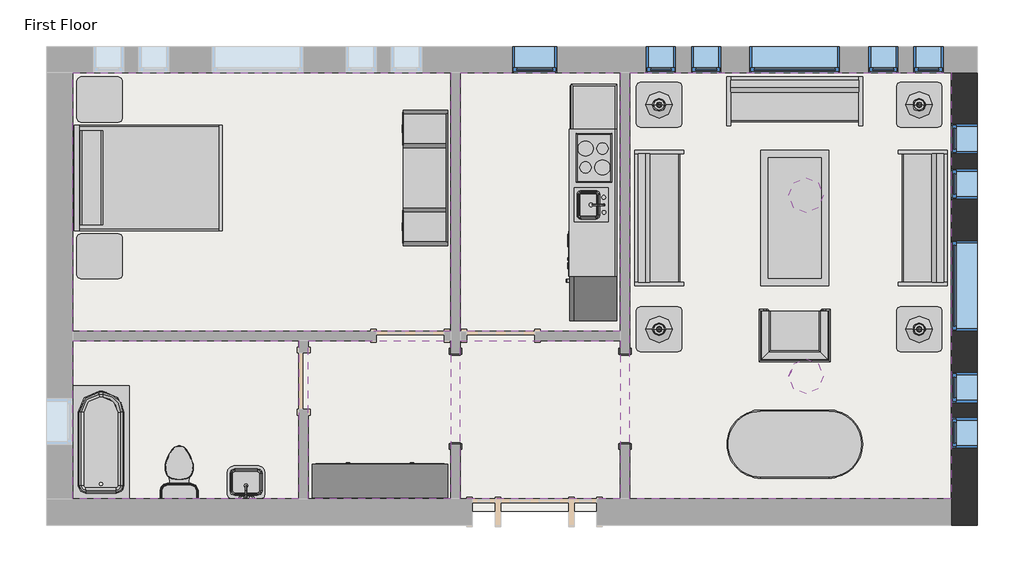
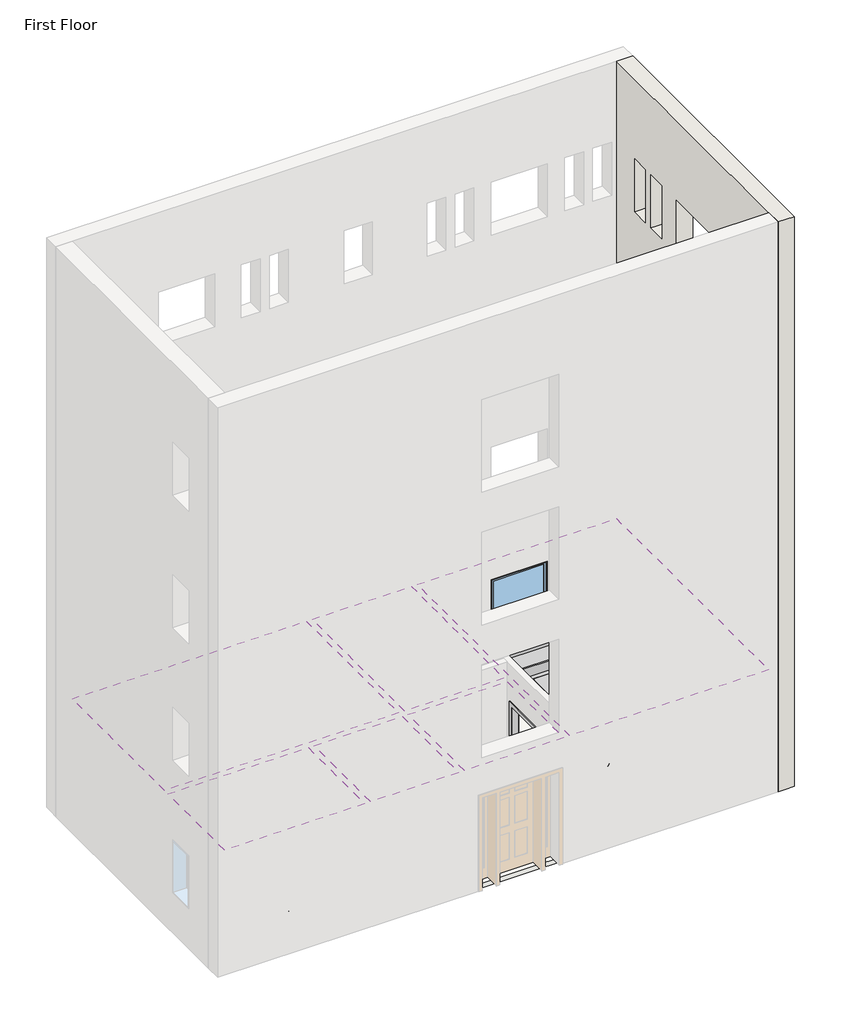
# One storey, part 2 of 2: 15 furniture elements, 11 windows, 6 coverings, 6 light fixtures, 3 flow terminals, 3 proxies, 1 slab, 1 wall.
"""IFC4 building model written with IfcOpenShell, lengths in millimetres."""

from ifc_helpers import new_model, si_unit, frame, origin, place, context, project, spatial, polyline, outline, extrude, faceted_brep, transform, mapped, element, save
from components import proxy_64a468c4, proxy_f44482cc, flow_terminal_0aeb31e3, toilet_domestic_3d_toilet_domestic_3d_f7549cf7, toilet_domestic_3d_toilet_domestic_3d_183bbd19, tub_rectangular_3d_tub_rectangular_3d_5e45a89b, furniture_096e7f55, chair_corbu_chair_corbu_2764bdef, furniture_7c473f12, furniture_ddc78764, furniture_4ef38d96, furniture_cd93a443, furniture_2c34a4f9, furniture_3a588284, furniture_1befe2a2, pendant_light_disk_100w_120v_c68bffb6, pendant_light_disk_100w_120v_c567000c, table_lamp_standard_60w_120v_6e8cd8b1, window_da97879f, window_d61ef850, window_60baf983, window_6eb97611

model = new_model("IFC4")

# Units and contexts
model_context = context("Model", 3, world=origin())
ifc_project = project(units=[si_unit("LENGTHUNIT", "METRE", prefix="MILLI")], contexts=[model_context])

# Site, building, storey
site = spatial("IfcSite", under=ifc_project)
building = spatial("IfcBuilding", under=site)
storey = spatial("IfcBuildingStorey", under=building, Name="First Floor", Elevation=0.0)

# Proxies
placement = place(None, origin())
proxy_shape = proxy_64a468c4(model_context)
element("IfcBuildingElementProxy", 1, Name="Kitchenette - Medium : 8'6\"", ObjectType="Kitchenette - Medium : 8'6\"", at=placement, inside=storey, context=model_context, shape_type="MappedRepresentation", body=[
    mapped(proxy_shape, transform((-3887.7589563, 8837.7956433, 0.0), x_axis=(0.0, -1.0, 0.0), y_axis=(1.0, 0.0, 0.0), z_axis=(0.0, 0.0, 1.0))),
])
proxy_2_shape = proxy_f44482cc(model_context)
element("IfcBuildingElementProxy", 2, Name="Opening-Cased : 48\" x 84\"", ObjectType="Opening-Cased : 48\" x 84\"", at=placement, inside=storey, context=model_context, shape_type="MappedRepresentation", body=[
    mapped(proxy_2_shape, transform((-3773.4589563, 5882.4203434, 0.0), x_axis=(0.0, 1.0, 0.0), y_axis=(-1.0, 0.0, 0.0), z_axis=(0.0, 0.0, 1.0))),
])
element("IfcBuildingElementProxy", 3, Name="Opening-Cased : 48\" x 84\"", ObjectType="Opening-Cased : 48\" x 84\"", at=placement, inside=storey, context=model_context, shape_type="MappedRepresentation", body=[
    mapped(proxy_2_shape, transform((-6059.4589563, 5866.04303, 0.0), x_axis=(0.0, -1.0, 0.0), y_axis=(1.0, 0.0, 0.0), z_axis=(0.0, 0.0, 1.0))),
])

# Coverings
element("IfcCovering", 4, ObjectType="GWB on Mtl. Stud", at=placement, inside=storey, context=model_context, shape_type="SweptSolid", body=[
    extrude(outline(polyline([(-11217.2464563, 10270.0191867), (-6122.9589563, 10270.0191867), (-6122.9589563, 6787.0441867), (-11217.2464563, 6787.0441867), (-11217.2464563, 10270.0191867)])), frame((0.0, 0.0, 2590.8), z_axis=(0.0, 0.0, 1.0), x_axis=(1.0, 0.0, 0.0)), (0.0, 0.0, 1.0), 107.95),
])
element("IfcCovering", 5, ObjectType="GWB on Mtl. Stud", at=placement, inside=storey, context=model_context, shape_type="SweptSolid", body=[
    extrude(outline(polyline([(-5995.9589563, 6787.0441867), (-5995.9589563, 10270.0191867), (-3836.9589563, 10270.0191867), (-3836.9589563, 6787.0441867), (-5995.9589563, 6787.0441867)])), frame((0.0, 0.0, 2590.8), z_axis=(0.0, 0.0, 1.0), x_axis=(1.0, 0.0, 0.0)), (0.0, 0.0, 1.0), 107.95),
])
element("IfcCovering", 6, ObjectType="GWB on Mtl. Stud", at=placement, inside=storey, context=model_context, shape_type="SweptSolid", body=[
    extrude(outline(polyline([(-3709.9589563, 4526.4441867), (-3709.9589563, 10270.0191867), (622.3285437, 10270.0191867), (622.3285437, 4526.4441867), (-3709.9589563, 4526.4441867)])), frame((0.0, 0.0, 2590.8), z_axis=(0.0, 0.0, 1.0), x_axis=(1.0, 0.0, 0.0)), (0.0, 0.0, 1.0), 107.95),
])
element("IfcCovering", 7, ObjectType="GWB on Mtl. Stud", at=placement, inside=storey, context=model_context, shape_type="SweptSolid", body=[
    extrude(outline(polyline([(-3836.9589563, 4526.4441867), (-5995.9589563, 4526.4441867), (-5995.9589563, 6660.0441867), (-3836.9589563, 6660.0441867), (-3836.9589563, 4526.4441867)])), frame((0.0, 0.0, 2590.8), z_axis=(0.0, 0.0, 1.0), x_axis=(1.0, 0.0, 0.0)), (0.0, 0.0, 1.0), 107.95),
])
element("IfcCovering", 8, ObjectType="GWB on Mtl. Stud", at=placement, inside=storey, context=model_context, shape_type="SweptSolid", body=[
    extrude(outline(polyline([(-6122.9589563, 4526.4441867), (-8042.2464563, 4526.4441867), (-8042.2464563, 6660.0441867), (-6122.9589563, 6660.0441867), (-6122.9589563, 4526.4441867)])), frame((0.0, 0.0, 2590.8), z_axis=(0.0, 0.0, 1.0), x_axis=(1.0, 0.0, 0.0)), (0.0, 0.0, 1.0), 107.95),
])
element("IfcCovering", 9, ObjectType="GWB on Mtl. Stud", at=placement, inside=storey, context=model_context, shape_type="SweptSolid", body=[
    extrude(outline(polyline([(-8169.2464563, 6660.0441867), (-8169.2464563, 4526.4441867), (-11217.2464563, 4526.4441867), (-11217.2464563, 6660.0441867), (-8169.2464563, 6660.0441867)])), frame((0.0, 0.0, 2590.8), z_axis=(0.0, 0.0, 1.0), x_axis=(1.0, 0.0, 0.0)), (0.0, 0.0, 1.0), 107.95),
])

# Flow terminals
flow_terminal_shape = flow_terminal_0aeb31e3(model_context)
element("IfcFlowTerminal", 10, ObjectType="Sink Vanity-Square : 24\" x 19\"", at=placement, inside=storey, context=model_context, shape_type="MappedRepresentation", body=[
    mapped(flow_terminal_shape, transform((-8864.7572157, 4706.5895878, 0.0), x_axis=(-1.0, 0.0, 0.0), y_axis=(0.0, -1.0, 0.0), z_axis=(0.0, 0.0, 1.0))),
])
toilet_domestic_3d_toilet_domestic_3d_shape = toilet_domestic_3d_toilet_domestic_3d_f7549cf7(model_context)
toilet_domestic_3d_toilet_domestic_3d_2_shape = toilet_domestic_3d_toilet_domestic_3d_183bbd19(model_context)
element("IfcFlowTerminal", 11, ObjectType="Toilet-Domestic-3D : Toilet-Domestic-3D", at=placement, inside=storey, context=model_context, shape_type="MappedRepresentation", body=[
    mapped(toilet_domestic_3d_toilet_domestic_3d_shape, transform((-9782.1466587, 4940.866411, 0.0), x_axis=(-1.0000000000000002, 0.0, 0.0), y_axis=(0.0, -1.0000000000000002, 0.0), z_axis=(0.0, 0.0, 1.0))),
    mapped(toilet_domestic_3d_toilet_domestic_3d_2_shape, transform((-9782.1466587, 4940.866411, 0.0), x_axis=(-1.0000000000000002, 0.0, 0.0), y_axis=(0.0, -1.0000000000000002, 0.0), z_axis=(0.0, 0.0, 1.0))),
])
tub_rectangular_3d_tub_rectangular_3d_shape = tub_rectangular_3d_tub_rectangular_3d_5e45a89b(model_context)
element("IfcFlowTerminal", 12, ObjectType="Tub-Rectangular-3D : Tub-Rectangular-3D", at=placement, inside=storey, context=model_context, shape_type="MappedRepresentation", body=[
    mapped(tub_rectangular_3d_tub_rectangular_3d_shape, transform((-11393.4589563, 5637.0471554, 0.0), x_axis=(0.0, 1.0, 0.0), y_axis=(-1.0, 0.0, 0.0), z_axis=(0.0, 0.0, 1.0))),
])

# Furniture
furniture_shape = furniture_096e7f55(model_context)
element("IfcFurniture", 13, ObjectType="Bed-Shaker : Double 56\" x 78\"", at=placement, inside=storey, context=model_context, shape_type="MappedRepresentation", body=[
    mapped(furniture_shape, transform((-11183.1982802, 8871.8755561, 0.0), x_axis=(0.0, 1.0, 0.0), y_axis=(-1.0, 0.0, 0.0), z_axis=(0.0, 0.0, 1.0))),
])
chair_corbu_chair_corbu_shape = chair_corbu_chair_corbu_2764bdef(model_context)
element("IfcFurniture", 14, ObjectType="Chair-Corbu : Chair-Corbu", at=placement, inside=storey, context=model_context, shape_type="MappedRepresentation", body=[
    mapped(chair_corbu_chair_corbu_shape, transform((-914.0851858, 7193.4962359, 0.0), x_axis=(-1.0, 0.0, 0.0), y_axis=(0.0, -1.0, 0.0), z_axis=(0.0, 0.0, 1.0))),
])
furniture_2_shape = furniture_7c473f12(model_context)
element("IfcFurniture", 15, ObjectType="Dresser : 72\" x 60\" x 18\"", at=placement, inside=storey, context=model_context, shape_type="MappedRepresentation", body=[
    mapped(furniture_2_shape, transform((-7344.6522161, 4404.5812326, 0.0), x_axis=(-1.0, 0.0, 0.0), y_axis=(0.0, -1.0, 0.0), z_axis=(0.0, 0.0, 1.0))),
])
furniture_3_shape = furniture_ddc78764(model_context)
element("IfcFurniture", 16, ObjectType="Entertainment Center : 72\" x 72\" x 24\"", at=placement, inside=storey, context=model_context, shape_type="MappedRepresentation", body=[
    mapped(furniture_3_shape, transform((-6059.4589563, 8852.8255561, 0.0), x_axis=(0.0, -1.0, 0.0), y_axis=(1.0, 0.0, 0.0), z_axis=(0.0, 0.0, 1.0))),
])
furniture_4_shape = furniture_4ef38d96(model_context)
element("IfcFurniture", 17, ObjectType="Sofa : 72\"", at=placement, inside=storey, context=model_context, shape_type="MappedRepresentation", body=[
    mapped(furniture_4_shape, transform((-1557.8294481, 9741.2775883, 0.0), x_axis=(1.0, 0.0, 0.0), y_axis=(0.0, 1.0, 0.0), z_axis=(0.0, 0.0, 1.0))),
])
element("IfcFurniture", 18, ObjectType="Sofa : 72\"", at=placement, inside=storey, context=model_context, shape_type="MappedRepresentation", body=[
    mapped(furniture_4_shape, transform((93.5869453, 8383.0021785, 0.0), x_axis=(0.0, -1.0, 0.0), y_axis=(1.0, 0.0, 0.0), z_axis=(0.0, 0.0, 1.0))),
])
element("IfcFurniture", 19, ObjectType="Sofa : 72\"", at=placement, inside=storey, context=model_context, shape_type="MappedRepresentation", body=[
    mapped(furniture_4_shape, transform((-3170.104858, 8242.2611949, 0.0), x_axis=(0.0, 1.0, 0.0), y_axis=(-1.0, 0.0, 0.0), z_axis=(0.0, 0.0, 1.0))),
])
furniture_5_shape = furniture_cd93a443(model_context)
element("IfcFurniture", 20, ObjectType="Table-Coffee : 36\" x 72\" x 18\"", at=placement, inside=storey, context=model_context, shape_type="MappedRepresentation", body=[
    mapped(furniture_5_shape, transform((-1582.6700341, 8330.8974534, 0.0), x_axis=(0.0, -1.0, 0.0), y_axis=(1.0, 0.0, 0.0), z_axis=(0.0, 0.0, 1.0))),
])
furniture_6_shape = furniture_2c34a4f9(model_context)
element("IfcFurniture", 21, ObjectType="Table-Dining Oval : 36\" x 72\"", at=placement, inside=storey, context=model_context, shape_type="MappedRepresentation", body=[
    mapped(furniture_6_shape, transform((-1085.6392842, 5622.7300473, 0.0), x_axis=(1.0, 0.0, 0.0), y_axis=(0.0, 1.0, 0.0), z_axis=(0.0, 0.0, 1.0))),
])
furniture_7_shape = furniture_3a588284(model_context)
element("IfcFurniture", 22, ObjectType="Table-End : 24\" x 24\"", at=placement, inside=storey, context=model_context, shape_type="MappedRepresentation", body=[
    mapped(furniture_7_shape, transform((-119.5925866, 9684.2316867, 0.0), x_axis=(1.0, 0.0, 0.0), y_axis=(0.0, 1.0, 0.0), z_axis=(0.0, 0.0, 1.0))),
])
element("IfcFurniture", 23, ObjectType="Table-End : 24\" x 24\"", at=placement, inside=storey, context=model_context, shape_type="MappedRepresentation", body=[
    mapped(furniture_7_shape, transform((-3624.7925866, 9684.2316867, 0.0), x_axis=(1.0, 0.0, 0.0), y_axis=(0.0, 1.0, 0.0), z_axis=(0.0, 0.0, 1.0))),
])
element("IfcFurniture", 24, ObjectType="Table-End : 24\" x 24\"", at=placement, inside=storey, context=model_context, shape_type="MappedRepresentation", body=[
    mapped(furniture_7_shape, transform((-3624.7925866, 6660.0441867, 0.0), x_axis=(1.0, 0.0, 0.0), y_axis=(0.0, 1.0, 0.0), z_axis=(0.0, 0.0, 1.0))),
])
element("IfcFurniture", 25, ObjectType="Table-End : 24\" x 24\"", at=placement, inside=storey, context=model_context, shape_type="MappedRepresentation", body=[
    mapped(furniture_7_shape, transform((-119.5925866, 6660.0441867, 0.0), x_axis=(1.0, 0.0, 0.0), y_axis=(0.0, 1.0, 0.0), z_axis=(0.0, 0.0, 1.0))),
])
element("IfcFurniture", 26, ObjectType="Table-End : 24\" x 24\"", at=placement, inside=storey, context=model_context, shape_type="MappedRepresentation", body=[
    mapped(furniture_7_shape, transform((-11164.2346356, 9756.0737357, 0.0), x_axis=(1.0, 0.0, 0.0), y_axis=(0.0, 1.0, 0.0), z_axis=(0.0, 0.0, 1.0))),
])
furniture_8_shape = furniture_1befe2a2(model_context)
element("IfcFurniture", 27, ObjectType="Table-End : 24\" x 24\"", at=placement, inside=storey, context=model_context, shape_type="MappedRepresentation", body=[
    mapped(furniture_8_shape, transform((-11164.2346356, 7949.5773764, 0.0), x_axis=(1.0, 0.0, 0.0), y_axis=(0.0, 1.0, 0.0), z_axis=(0.0, 0.0, 1.0))),
])

# Light fixtures
pendant_light_disk_100w_120v_shape = pendant_light_disk_100w_120v_c68bffb6(model_context)
element("IfcLightFixture", 28, ObjectType="Pendant Light - Disk : 100W - 120V", at=placement, inside=storey, context=model_context, shape_type="MappedRepresentation", body=[
    mapped(pendant_light_disk_100w_120v_shape, transform((-1335.0589563, 8617.4316867, 152.3999938), x_axis=(1.0, 0.0, 0.0), y_axis=(0.0, 1.0, 0.0), z_axis=(0.0, 0.0, 1.0))),
])
pendant_light_disk_100w_120v_2_shape = pendant_light_disk_100w_120v_c567000c(model_context)
element("IfcLightFixture", 29, ObjectType="Pendant Light - Disk : 100W - 120V", at=placement, inside=storey, context=model_context, shape_type="MappedRepresentation", body=[
    mapped(pendant_light_disk_100w_120v_2_shape, transform((-1335.0589563, 6179.0316867, 152.3999938), x_axis=(1.0, 0.0, 0.0), y_axis=(0.0, 1.0, 0.0), z_axis=(0.0, 0.0, 1.0))),
])
table_lamp_standard_60w_120v_shape = table_lamp_standard_60w_120v_6e8cd8b1(model_context)
element("IfcLightFixture", 30, ObjectType="Table Lamp - Standard : 60W - 120V", at=placement, inside=storey, context=model_context, shape_type="MappedRepresentation", body=[
    mapped(table_lamp_standard_60w_120v_shape, transform((188.9410437, 9836.6316867, 381.0), x_axis=(1.0, 0.0, 0.0), y_axis=(0.0, 1.0, 0.0), z_axis=(0.0, 0.0, 1.0))),
])
element("IfcLightFixture", 31, ObjectType="Table Lamp - Standard : 60W - 120V", at=placement, inside=storey, context=model_context, shape_type="MappedRepresentation", body=[
    mapped(table_lamp_standard_60w_120v_shape, transform((188.9410437, 6812.4441867, 381.0), x_axis=(1.0, 0.0, 0.0), y_axis=(0.0, 1.0, 0.0), z_axis=(0.0, 0.0, 1.0))),
])
element("IfcLightFixture", 32, ObjectType="Table Lamp - Standard : 60W - 120V", at=placement, inside=storey, context=model_context, shape_type="MappedRepresentation", body=[
    mapped(table_lamp_standard_60w_120v_shape, transform((-3316.2589563, 6812.4441867, 381.0), x_axis=(1.0, 0.0, 0.0), y_axis=(0.0, 1.0, 0.0), z_axis=(0.0, 0.0, 1.0))),
])
element("IfcLightFixture", 33, ObjectType="Table Lamp - Standard : 60W - 120V", at=placement, inside=storey, context=model_context, shape_type="MappedRepresentation", body=[
    mapped(table_lamp_standard_60w_120v_shape, transform((-3316.2589563, 9836.6316867, 381.0), x_axis=(1.0, 0.0, 0.0), y_axis=(0.0, 1.0, 0.0), z_axis=(0.0, 0.0, 1.0))),
])

# Slab
element("IfcSlab", 34, ObjectType="LW Concrete on Metal Deck", at=placement, inside=storey, context=model_context, shape_type="SweptSolid", body=[
    extrude(outline(polyline([(787.4285437, 10435.1191867), (787.4285437, 4361.3441867), (-11382.3464563, 4361.3441867), (-11382.3464563, 10435.1191867), (787.4285437, 10435.1191867)])), frame((0.0, 0.0, -104.775), z_axis=(0.0, 0.0, 1.0), x_axis=(1.0, 0.0, 0.0)), (0.0, 0.0, 1.0), 104.775),
])

# Wall
element("IfcWall", 35, ObjectType="Exterior - Brick on Mtl. Stud", at=placement, inside=storey, context=model_context, shape_type="Brep", body=[
    faceted_brep([(622.3285437, 10270.0191867, 0.0), (622.3285437, 4526.4441867, 0.0), (622.3285437, 4361.3441867, 0.0), (622.3285437, 4174.0191867, 0.0), (622.3285437, 4174.0191867, 13106.4), (622.3285437, 4526.4441867, 13106.4), (622.3285437, 10270.0191867, 13106.4), (622.3285437, 8007.8316867, 2133.6), (622.3285437, 6788.6316867, 2133.6), (622.3285437, 6788.6316867, 914.4), (622.3285437, 8007.8316867, 914.4), (622.3285437, 9582.6316867, 2133.6), (622.3285437, 9176.2316867, 2133.6), (622.3285437, 9176.2316867, 914.4), (622.3285437, 9582.6316867, 914.4), (622.3285437, 8973.0316867, 2133.6), (622.3285437, 8566.6316867, 2133.6), (622.3285437, 8566.6316867, 914.4), (622.3285437, 8973.0316867, 914.4), (622.3285437, 5213.8316867, 2133.6), (622.3285437, 5213.8316867, 914.4), (622.3285437, 5620.2316867, 914.4), (622.3285437, 5620.2316867, 2133.6), (622.3285437, 5823.4316867, 2133.6), (622.3285437, 5823.4316867, 914.4), (622.3285437, 6229.8316867, 914.4), (622.3285437, 6229.8316867, 2133.6), (622.3285437, 8007.8316867, 11277.6), (622.3285437, 6788.6316867, 11277.6), (622.3285437, 6788.6316867, 10058.4), (622.3285437, 8007.8316867, 10058.4), (622.3285437, 9582.6316867, 11277.6), (622.3285437, 9176.2316867, 11277.6), (622.3285437, 9176.2316867, 10058.4), (622.3285437, 9582.6316867, 10058.4), (622.3285437, 8973.0316867, 11277.6), (622.3285437, 8566.6316867, 11277.6), (622.3285437, 8566.6316867, 10058.4), (622.3285437, 8973.0316867, 10058.4), (622.3285437, 5213.8316867, 11277.6), (622.3285437, 5213.8316867, 10058.4), (622.3285437, 5620.2316867, 10058.4), (622.3285437, 5620.2316867, 11277.6), (622.3285437, 5823.4316867, 11277.6), (622.3285437, 5823.4316867, 10058.4), (622.3285437, 6229.8316867, 10058.4), (622.3285437, 6229.8316867, 11277.6), (622.3285437, 8007.8316867, 5181.6), (622.3285437, 6788.6316867, 5181.6), (622.3285437, 6788.6316867, 3962.4), (622.3285437, 8007.8316867, 3962.4), (622.3285437, 9582.6316867, 5181.6), (622.3285437, 9176.2316867, 5181.6), (622.3285437, 9176.2316867, 3962.4), (622.3285437, 9582.6316867, 3962.4), (622.3285437, 8973.0316867, 5181.6), (622.3285437, 8566.6316867, 5181.6), (622.3285437, 8566.6316867, 3962.4), (622.3285437, 8973.0316867, 3962.4), (622.3285437, 5213.8316867, 5181.6), (622.3285437, 5213.8316867, 3962.4), (622.3285437, 5620.2316867, 3962.4), (622.3285437, 5620.2316867, 5181.6), (622.3285437, 5823.4316867, 5181.6), (622.3285437, 5823.4316867, 3962.4), (622.3285437, 6229.8316867, 3962.4), (622.3285437, 6229.8316867, 5181.6), (622.3285437, 8007.8316867, 8229.6), (622.3285437, 6788.6316867, 8229.6), (622.3285437, 6788.6316867, 7010.4), (622.3285437, 8007.8316867, 7010.4), (622.3285437, 9582.6316867, 8229.6), (622.3285437, 9176.2316867, 8229.6), (622.3285437, 9176.2316867, 7010.4), (622.3285437, 9582.6316867, 7010.4), (622.3285437, 8973.0316867, 8229.6), (622.3285437, 8566.6316867, 8229.6), (622.3285437, 8566.6316867, 7010.4), (622.3285437, 8973.0316867, 7010.4), (622.3285437, 5213.8316867, 8229.6), (622.3285437, 5213.8316867, 7010.4), (622.3285437, 5620.2316867, 7010.4), (622.3285437, 5620.2316867, 8229.6), (622.3285437, 5823.4316867, 8229.6), (622.3285437, 5823.4316867, 7010.4), (622.3285437, 6229.8316867, 7010.4), (622.3285437, 6229.8316867, 8229.6), (974.7535437, 10270.0191867, 0.0), (974.7535437, 10270.0191867, 13106.4), (974.7535437, 4174.0191867, 13106.4), (974.7535437, 4174.0191867, 0.0), (974.7535437, 4361.3441867, 0.0), (974.7535437, 8007.8316867, 2133.6), (974.7535437, 8007.8316867, 914.4), (974.7535437, 6788.6316867, 914.4), (974.7535437, 6788.6316867, 2133.6), (974.7535437, 9582.6316867, 2133.6), (974.7535437, 9582.6316867, 914.4), (974.7535437, 9176.2316867, 914.4), (974.7535437, 9176.2316867, 2133.6), (974.7535437, 8973.0316867, 2133.6), (974.7535437, 8973.0316867, 914.4), (974.7535437, 8566.6316867, 914.4), (974.7535437, 8566.6316867, 2133.6), (974.7535437, 5213.8316867, 2133.6), (974.7535437, 5620.2316867, 2133.6), (974.7535437, 5620.2316867, 914.4), (974.7535437, 5213.8316867, 914.4), (974.7535437, 5823.4316867, 2133.6), (974.7535437, 6229.8316867, 2133.6), (974.7535437, 6229.8316867, 914.4), (974.7535437, 5823.4316867, 914.4), (974.7535437, 8007.8316867, 11277.6), (974.7535437, 8007.8316867, 10058.4), (974.7535437, 6788.6316867, 10058.4), (974.7535437, 6788.6316867, 11277.6), (974.7535437, 9582.6316867, 11277.6), (974.7535437, 9582.6316867, 10058.4), (974.7535437, 9176.2316867, 10058.4), (974.7535437, 9176.2316867, 11277.6), (974.7535437, 8973.0316867, 11277.6), (974.7535437, 8973.0316867, 10058.4), (974.7535437, 8566.6316867, 10058.4), (974.7535437, 8566.6316867, 11277.6), (974.7535437, 5213.8316867, 11277.6), (974.7535437, 5620.2316867, 11277.6), (974.7535437, 5620.2316867, 10058.4), (974.7535437, 5213.8316867, 10058.4), (974.7535437, 5823.4316867, 11277.6), (974.7535437, 6229.8316867, 11277.6), (974.7535437, 6229.8316867, 10058.4), (974.7535437, 5823.4316867, 10058.4), (974.7535437, 8007.8316867, 5181.6), (974.7535437, 8007.8316867, 3962.4), (974.7535437, 6788.6316867, 3962.4), (974.7535437, 6788.6316867, 5181.6), (974.7535437, 9582.6316867, 5181.6), (974.7535437, 9582.6316867, 3962.4), (974.7535437, 9176.2316867, 3962.4), (974.7535437, 9176.2316867, 5181.6), (974.7535437, 8973.0316867, 5181.6), (974.7535437, 8973.0316867, 3962.4), (974.7535437, 8566.6316867, 3962.4), (974.7535437, 8566.6316867, 5181.6), (974.7535437, 5213.8316867, 5181.6), (974.7535437, 5620.2316867, 5181.6), (974.7535437, 5620.2316867, 3962.4), (974.7535437, 5213.8316867, 3962.4), (974.7535437, 5823.4316867, 5181.6), (974.7535437, 6229.8316867, 5181.6), (974.7535437, 6229.8316867, 3962.4), (974.7535437, 5823.4316867, 3962.4), (974.7535437, 8007.8316867, 8229.6), (974.7535437, 8007.8316867, 7010.4), (974.7535437, 6788.6316867, 7010.4), (974.7535437, 6788.6316867, 8229.6), (974.7535437, 9582.6316867, 8229.6), (974.7535437, 9582.6316867, 7010.4), (974.7535437, 9176.2316867, 7010.4), (974.7535437, 9176.2316867, 8229.6), (974.7535437, 8973.0316867, 8229.6), (974.7535437, 8973.0316867, 7010.4), (974.7535437, 8566.6316867, 7010.4), (974.7535437, 8566.6316867, 8229.6), (974.7535437, 5213.8316867, 8229.6), (974.7535437, 5620.2316867, 8229.6), (974.7535437, 5620.2316867, 7010.4), (974.7535437, 5213.8316867, 7010.4), (974.7535437, 5823.4316867, 8229.6), (974.7535437, 6229.8316867, 8229.6), (974.7535437, 6229.8316867, 7010.4), (974.7535437, 5823.4316867, 7010.4), (787.4285437, 4174.0191867, 0.0), (787.4285437, 10270.0191867, 0.0), (787.4285437, 4361.3441867, 0.0)], [[[0, 1, 2, 3, 4, 5, 6], [7, 8, 9, 10], [11, 12, 13, 14], [15, 16, 17, 18], [19, 20, 21, 22], [23, 24, 25, 26], [27, 28, 29, 30], [31, 32, 33, 34], [35, 36, 37, 38], [39, 40, 41, 42], [43, 44, 45, 46], [47, 48, 49, 50], [51, 52, 53, 54], [55, 56, 57, 58], [59, 60, 61, 62], [63, 64, 65, 66], [67, 68, 69, 70], [71, 72, 73, 74], [75, 76, 77, 78], [79, 80, 81, 82], [83, 84, 85, 86]], [[87, 88, 89, 90, 91], [92, 93, 94, 95], [96, 97, 98, 99], [100, 101, 102, 103], [104, 105, 106, 107], [108, 109, 110, 111], [112, 113, 114, 115], [116, 117, 118, 119], [120, 121, 122, 123], [124, 125, 126, 127], [128, 129, 130, 131], [132, 133, 134, 135], [136, 137, 138, 139], [140, 141, 142, 143], [144, 145, 146, 147], [148, 149, 150, 151], [152, 153, 154, 155], [156, 157, 158, 159], [160, 161, 162, 163], [164, 165, 166, 167], [168, 169, 170, 171]], [[6, 5, 4, 89, 88]], [[4, 3, 172, 90, 89]], [[0, 6, 88, 87, 173]], [[173, 87, 91, 174]], [[3, 2, 174, 172]], [[174, 91, 90, 172]], [[2, 1, 0, 173, 174]], [[93, 92, 7, 10]], [[94, 93, 10, 9]], [[95, 94, 9, 8]], [[92, 95, 8, 7]], [[97, 96, 11, 14]], [[98, 97, 14, 13]], [[99, 98, 13, 12]], [[96, 99, 12, 11]], [[101, 100, 15, 18]], [[102, 101, 18, 17]], [[103, 102, 17, 16]], [[100, 103, 16, 15]], [[20, 19, 104, 107]], [[21, 20, 107, 106]], [[22, 21, 106, 105]], [[19, 22, 105, 104]], [[24, 23, 108, 111]], [[25, 24, 111, 110]], [[26, 25, 110, 109]], [[23, 26, 109, 108]], [[113, 112, 27, 30]], [[114, 113, 30, 29]], [[115, 114, 29, 28]], [[112, 115, 28, 27]], [[117, 116, 31, 34]], [[118, 117, 34, 33]], [[119, 118, 33, 32]], [[116, 119, 32, 31]], [[121, 120, 35, 38]], [[122, 121, 38, 37]], [[123, 122, 37, 36]], [[120, 123, 36, 35]], [[40, 39, 124, 127]], [[41, 40, 127, 126]], [[42, 41, 126, 125]], [[39, 42, 125, 124]], [[44, 43, 128, 131]], [[45, 44, 131, 130]], [[46, 45, 130, 129]], [[43, 46, 129, 128]], [[133, 132, 47, 50]], [[134, 133, 50, 49]], [[135, 134, 49, 48]], [[132, 135, 48, 47]], [[137, 136, 51, 54]], [[138, 137, 54, 53]], [[139, 138, 53, 52]], [[136, 139, 52, 51]], [[141, 140, 55, 58]], [[142, 141, 58, 57]], [[143, 142, 57, 56]], [[140, 143, 56, 55]], [[60, 59, 144, 147]], [[61, 60, 147, 146]], [[62, 61, 146, 145]], [[59, 62, 145, 144]], [[64, 63, 148, 151]], [[65, 64, 151, 150]], [[66, 65, 150, 149]], [[63, 66, 149, 148]], [[153, 152, 67, 70]], [[154, 153, 70, 69]], [[155, 154, 69, 68]], [[152, 155, 68, 67]], [[157, 156, 71, 74]], [[158, 157, 74, 73]], [[159, 158, 73, 72]], [[156, 159, 72, 71]], [[161, 160, 75, 78]], [[162, 161, 78, 77]], [[163, 162, 77, 76]], [[160, 163, 76, 75]], [[80, 79, 164, 167]], [[81, 80, 167, 166]], [[82, 81, 166, 165]], [[79, 82, 165, 164]], [[84, 83, 168, 171]], [[85, 84, 171, 170]], [[86, 85, 170, 169]], [[83, 86, 169, 168]]]),
])

# Windows
window_shape = window_da97879f(model_context)
element("IfcWindow", 36, ObjectType="Fixed : 16\" x 48\"", at=placement, inside=storey, context=model_context, shape_type="MappedRepresentation", body=[
    mapped(window_shape, transform((-3328.9589563, 10446.2316867, 0.0), x_axis=(-1.0, 0.0, 0.0), y_axis=(0.0, -1.0, 0.0), z_axis=(0.0, 0.0, 1.0))),
])
element("IfcWindow", 37, ObjectType="Fixed : 16\" x 48\"", at=placement, inside=storey, context=model_context, shape_type="MappedRepresentation", body=[
    mapped(window_shape, transform((-2719.3589563, 10446.2316867, 0.0), x_axis=(-1.0, 0.0, 0.0), y_axis=(0.0, -1.0, 0.0), z_axis=(0.0, 0.0, 1.0))),
])
element("IfcWindow", 38, ObjectType="Fixed : 16\" x 48\"", at=placement, inside=storey, context=model_context, shape_type="MappedRepresentation", body=[
    mapped(window_shape, transform((798.5410437, 9417.5316867, 0.0), x_axis=(0.0, 1.0, 0.0), y_axis=(-1.0, 0.0, 0.0), z_axis=(0.0, 0.0, 1.0))),
])
element("IfcWindow", 39, ObjectType="Fixed : 16\" x 48\"", at=placement, inside=storey, context=model_context, shape_type="MappedRepresentation", body=[
    mapped(window_shape, transform((798.5410437, 8807.9316867, 0.0), x_axis=(0.0, 1.0, 0.0), y_axis=(-1.0, 0.0, 0.0), z_axis=(0.0, 0.0, 1.0))),
])
window_2_shape = window_d61ef850(model_context)
element("IfcWindow", 40, ObjectType="Fixed : 16\" x 48\"", at=placement, inside=storey, context=model_context, shape_type="MappedRepresentation", body=[
    mapped(window_2_shape, transform((354.0410437, 10446.2316867, 0.0), x_axis=(1.0, 0.0, 0.0), y_axis=(0.0, 1.0, 0.0), z_axis=(0.0, 0.0, 1.0))),
])
element("IfcWindow", 41, ObjectType="Fixed : 16\" x 48\"", at=placement, inside=storey, context=model_context, shape_type="MappedRepresentation", body=[
    mapped(window_2_shape, transform((-255.5589563, 10446.2316867, 0.0), x_axis=(1.0, 0.0, 0.0), y_axis=(0.0, 1.0, 0.0), z_axis=(0.0, 0.0, 1.0))),
])
element("IfcWindow", 42, ObjectType="Fixed : 16\" x 48\"", at=placement, inside=storey, context=model_context, shape_type="MappedRepresentation", body=[
    mapped(window_2_shape, transform((798.5410437, 5378.9316867, 0.0), x_axis=(0.0, -1.0, 0.0), y_axis=(1.0, 0.0, 0.0), z_axis=(0.0, 0.0, 1.0))),
])
element("IfcWindow", 43, ObjectType="Fixed : 16\" x 48\"", at=placement, inside=storey, context=model_context, shape_type="MappedRepresentation", body=[
    mapped(window_2_shape, transform((798.5410437, 5988.5316867, 0.0), x_axis=(0.0, -1.0, 0.0), y_axis=(1.0, 0.0, 0.0), z_axis=(0.0, 0.0, 1.0))),
])
window_3_shape = window_60baf983(model_context)
element("IfcWindow", 44, ObjectType="Fixed : 24\" x 48\"", at=placement, inside=storey, context=model_context, shape_type="MappedRepresentation", body=[
    mapped(window_3_shape, transform((-5030.7589563, 10446.2316867, 0.0), x_axis=(-1.0, 0.0, 0.0), y_axis=(0.0, -1.0, 0.0), z_axis=(0.0, 0.0, 1.0))),
])
window_4_shape = window_6eb97611(model_context)
element("IfcWindow", 45, ObjectType="Fixed : 48\" x 48\"", at=placement, inside=storey, context=model_context, shape_type="MappedRepresentation", body=[
    mapped(window_4_shape, transform((-1525.5589563, 10446.2316867, 0.0), x_axis=(-1.0, 0.0, 0.0), y_axis=(0.0, -1.0, 0.0), z_axis=(0.0, 0.0, 1.0))),
])
element("IfcWindow", 46, ObjectType="Fixed : 48\" x 48\"", at=placement, inside=storey, context=model_context, shape_type="MappedRepresentation", body=[
    mapped(window_4_shape, transform((798.5410437, 7436.3316867, 0.0), x_axis=(0.0, 1.0, 0.0), y_axis=(-1.0, 0.0, 0.0), z_axis=(0.0, 0.0, 1.0))),
])

save(model, "model.ifc")
